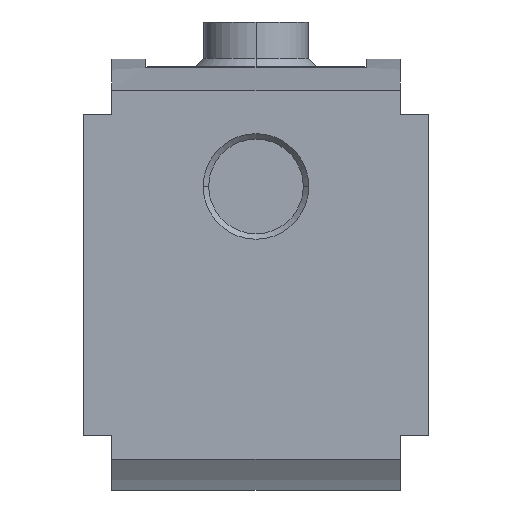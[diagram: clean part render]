
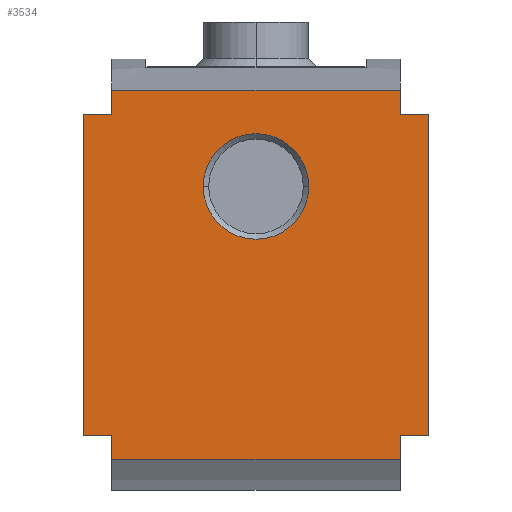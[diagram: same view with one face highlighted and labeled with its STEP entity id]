
A CAD part, front view. The second image highlights one B-rep face of the part: STEP entity #3534.
In plain terms, the highlighted planar face has unit normal (0, -1, 0).
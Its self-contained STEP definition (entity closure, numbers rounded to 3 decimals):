
#30=DIRECTION('',(0.,0.,-1.));
#31=VECTOR('',#30,3.);
#32=CARTESIAN_POINT('',(-18.,-25.,-20.));
#33=LINE('',#32,#31);
#64=DIRECTION('',(0.,0.,-1.));
#65=VECTOR('',#64,3.);
#66=CARTESIAN_POINT('',(-18.,-25.,23.));
#67=LINE('',#66,#65);
#125=DIRECTION('',(0.,0.,-1.));
#126=VECTOR('',#125,3.);
#127=CARTESIAN_POINT('',(18.,-25.,23.));
#128=LINE('',#127,#126);
#159=DIRECTION('',(0.,0.,-1.));
#160=VECTOR('',#159,3.);
#161=CARTESIAN_POINT('',(18.,-25.,-20.));
#162=LINE('',#161,#160);
#209=DIRECTION('',(1.,0.,0.));
#210=VECTOR('',#209,3.5);
#211=CARTESIAN_POINT('',(18.,-25.,-20.));
#212=LINE('',#211,#210);
#275=DIRECTION('',(1.,0.,0.));
#276=VECTOR('',#275,3.5);
#277=CARTESIAN_POINT('',(-21.5,-25.,-20.));
#278=LINE('',#277,#276);
#606=DIRECTION('',(1.,0.,0.));
#607=VECTOR('',#606,3.5);
#608=CARTESIAN_POINT('',(18.,-25.,20.));
#609=LINE('',#608,#607);
#646=DIRECTION('',(1.,0.,0.));
#647=VECTOR('',#646,3.5);
#648=CARTESIAN_POINT('',(-21.5,-25.,20.));
#649=LINE('',#648,#647);
#781=DIRECTION('',(0.,0.,1.));
#782=VECTOR('',#781,40.);
#783=CARTESIAN_POINT('',(21.5,-25.,-20.));
#784=LINE('',#783,#782);
#785=DIRECTION('',(0.,0.,1.));
#786=VECTOR('',#785,40.);
#787=CARTESIAN_POINT('',(-21.5,-25.,-20.));
#788=LINE('',#787,#786);
#789=DIRECTION('',(1.,0.,0.));
#790=VECTOR('',#789,36.);
#791=CARTESIAN_POINT('',(-18.,-25.,23.));
#792=LINE('',#791,#790);
#793=CARTESIAN_POINT('',(0.,-25.,11.));
#794=DIRECTION('',(0.,1.,0.));
#795=DIRECTION('',(-1.,0.,0.));
#796=AXIS2_PLACEMENT_3D('',#793,#794,#795);
#798=CARTESIAN_POINT('',(0.,-25.,11.));
#799=DIRECTION('',(0.,1.,0.));
#800=DIRECTION('',(1.,0.,0.));
#801=AXIS2_PLACEMENT_3D('',#798,#799,#800);
#807=DIRECTION('',(1.,0.,0.));
#808=VECTOR('',#807,36.);
#809=CARTESIAN_POINT('',(-18.,-25.,-23.));
#810=LINE('',#809,#808);
#2002=CARTESIAN_POINT('',(-18.,-25.,23.));
#2003=CARTESIAN_POINT('',(18.,-25.,23.));
#2004=VERTEX_POINT('',#2002);
#2005=VERTEX_POINT('',#2003);
#2006=CARTESIAN_POINT('',(-18.,-25.,-23.));
#2007=CARTESIAN_POINT('',(18.,-25.,-23.));
#2008=VERTEX_POINT('',#2006);
#2009=VERTEX_POINT('',#2007);
#2020=CARTESIAN_POINT('',(-21.5,-25.,-20.));
#2021=VERTEX_POINT('',#2020);
#2022=CARTESIAN_POINT('',(21.5,-25.,-20.));
#2024=VERTEX_POINT('',#2022);
#2044=CARTESIAN_POINT('',(-21.5,-25.,20.));
#2045=VERTEX_POINT('',#2044);
#2046=CARTESIAN_POINT('',(21.5,-25.,20.));
#2048=VERTEX_POINT('',#2046);
#2058=CARTESIAN_POINT('',(-18.,-25.,20.));
#2059=VERTEX_POINT('',#2058);
#2060=CARTESIAN_POINT('',(18.,-25.,20.));
#2061=VERTEX_POINT('',#2060);
#2062=CARTESIAN_POINT('',(-18.,-25.,-20.));
#2063=VERTEX_POINT('',#2062);
#2064=CARTESIAN_POINT('',(18.,-25.,-20.));
#2065=VERTEX_POINT('',#2064);
#2306=CARTESIAN_POINT('',(-6.579,-25.,11.));
#2307=CARTESIAN_POINT('',(6.579,-25.,11.));
#2308=VERTEX_POINT('',#2306);
#2309=VERTEX_POINT('',#2307);
#3506=CARTESIAN_POINT('',(-18.,-25.,23.));
#3507=DIRECTION('',(0.,-1.,0.));
#3508=DIRECTION('',(0.,0.,-1.));
#3509=AXIS2_PLACEMENT_3D('',#3506,#3507,#3508);
#3510=PLANE('',#3509);
#3511=ORIENTED_EDGE('',*,*,#2743,.T.);
#3512=ORIENTED_EDGE('',*,*,#3228,.T.);
#3513=ORIENTED_EDGE('',*,*,#3499,.F.);
#3514=ORIENTED_EDGE('',*,*,#2823,.F.);
#3515=ORIENTED_EDGE('',*,*,#2764,.T.);
#3517=ORIENTED_EDGE('',*,*,#3516,.F.);
#3518=ORIENTED_EDGE('',*,*,#2625,.F.);
#3519=ORIENTED_EDGE('',*,*,#2879,.F.);
#3521=ORIENTED_EDGE('',*,*,#3520,.T.);
#3522=ORIENTED_EDGE('',*,*,#3272,.T.);
#3523=ORIENTED_EDGE('',*,*,#2649,.F.);
#3525=ORIENTED_EDGE('',*,*,#3524,.T.);
#3526=EDGE_LOOP('',(#3511,#3512,#3513,#3514,#3515,#3517,#3518,#3519,#3521,#3522,
#3523,#3525));
#3527=FACE_OUTER_BOUND('',#3526,.F.);
#3529=ORIENTED_EDGE('',*,*,#3528,.F.);
#3531=ORIENTED_EDGE('',*,*,#3530,.F.);
#3532=EDGE_LOOP('',(#3529,#3531));
#3533=FACE_BOUND('',#3532,.F.);
#3534=ADVANCED_FACE('',(#3527,#3533),#3510,.T.);
#797=CIRCLE('',#796,6.579);
#802=CIRCLE('',#801,6.579);
#2625=EDGE_CURVE('',#2063,#2008,#33,.T.);
#2649=EDGE_CURVE('',#2004,#2059,#67,.T.);
#2743=EDGE_CURVE('',#2005,#2061,#128,.T.);
#2764=EDGE_CURVE('',#2065,#2009,#162,.T.);
#2823=EDGE_CURVE('',#2065,#2024,#212,.T.);
#2879=EDGE_CURVE('',#2021,#2063,#278,.T.);
#3228=EDGE_CURVE('',#2061,#2048,#609,.T.);
#3272=EDGE_CURVE('',#2045,#2059,#649,.T.);
#3499=EDGE_CURVE('',#2024,#2048,#784,.T.);
#3516=EDGE_CURVE('',#2008,#2009,#810,.T.);
#3520=EDGE_CURVE('',#2021,#2045,#788,.T.);
#3524=EDGE_CURVE('',#2004,#2005,#792,.T.);
#3528=EDGE_CURVE('',#2308,#2309,#797,.T.);
#3530=EDGE_CURVE('',#2309,#2308,#802,.T.);
